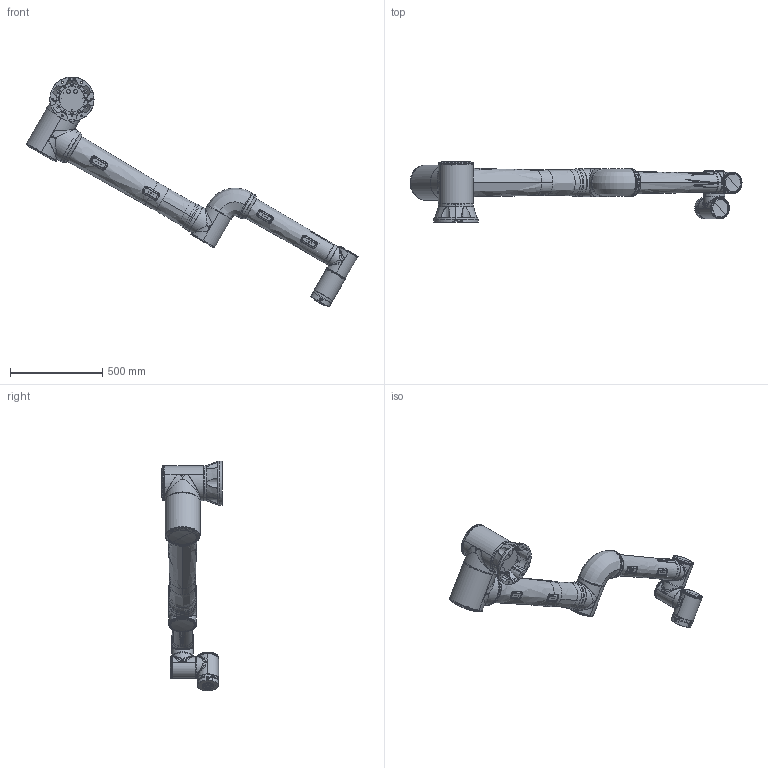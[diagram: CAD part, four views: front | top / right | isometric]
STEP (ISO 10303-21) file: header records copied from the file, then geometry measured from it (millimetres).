
FILE_DESCRIPTION (( 'STEP AP203' ), '1' );
FILE_NAME ('FR20-V6.0-Íâ·¢Ä£ÐÍ.STEP', '2024-11-14T12:24:46', ( '' ), ( '' ), 'SwSTEP 2.0', 'SolidWorks 2018', '' );
FILE_SCHEMA (( 'CONFIG_CONTROL_DESIGN' ));
Length unit declared in the file: millimetre
Products named in the file (13): FR20-V6.0-25壽誹綴裔; FR20-V6.0-3; FR20-V6.0-湮旋蹟佪欶; FR20-V6.0-4; FR20-V6.0-40壽誹綴裔; FR20-V6.0-32壽誹綴裔; FR20-V6.0-5; FR20-V6.0-苤旋蹟佪欶; FR20-V6.0-6; FR20-V6.0-7; FR20-V6.0-俋楷耀倰; FR20-V6.0-1; FR20-V6.0-2
Assembly tree (15 placements, depth 2):
  FR20-V6.0-俋楷耀倰
    FR20-V6.0-1
    FR20-V6.0-2
    FR20-V6.0-3
    FR20-V6.0-4
    FR20-V6.0-5
    FR20-V6.0-6
    FR20-V6.0-7
    FR20-V6.0-40壽誹綴裔  x2
    FR20-V6.0-32壽誹綴裔
    FR20-V6.0-25壽誹綴裔  x3
    FR20-V6.0-湮旋蹟佪欶
    FR20-V6.0-苤旋蹟佪欶
Bounding box: 1803.1 x 327 x 1248.78 mm (x, y, z)
Volume: 46400959.2 mm3; surface area: 2264711.6 mm2
Topology: 56 solids, 80 shells, 3325 faces, 7761 edges, 4777 vertices
Faces by surface type: cylinder 1085, plane 927, bspline 889, cone 366, sphere 48, torus 10
Entity records: 245201 total; most frequent: CARTESIAN_POINT 183896, ORIENTED_EDGE 13304, DIRECTION 11244, EDGE_CURVE 6652, AXIS2_PLACEMENT_3D 4546, VERTEX_POINT 4141, EDGE_LOOP 3089, FACE_OUTER_BOUND 2835
